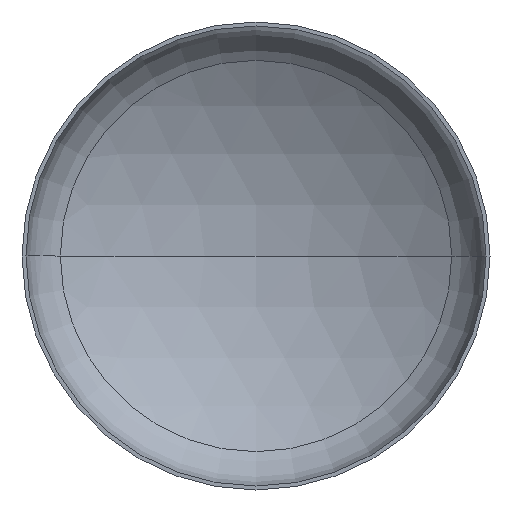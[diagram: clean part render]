
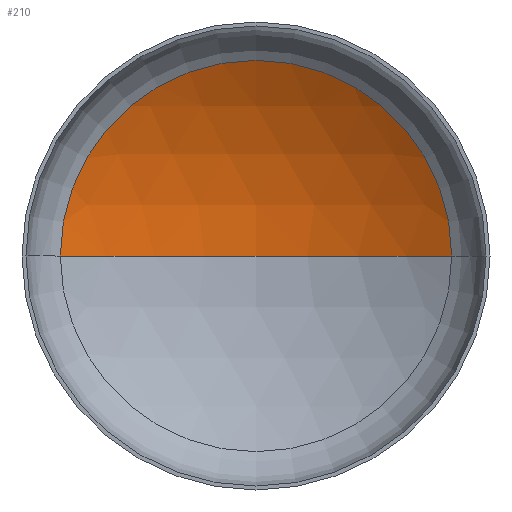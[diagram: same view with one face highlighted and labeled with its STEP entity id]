
A CAD part, front view. The second image highlights one B-rep face of the part: STEP entity #210.
In plain terms, the highlighted spherical face has radius 3040 mm.
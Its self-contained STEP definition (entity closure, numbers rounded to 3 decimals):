
#9 = EDGE_LOOP ( 'NONE', ( #110, #60, #46 ) ) ;
#40 = AXIS2_PLACEMENT_3D ( 'NONE', #295, #253, #180 ) ;
#45 = VERTEX_POINT ( 'NONE', #254 ) ;
#46 = ORIENTED_EDGE ( 'NONE', *, *, #147, .T. ) ;
#51 = AXIS2_PLACEMENT_3D ( 'NONE', #224, #275, #272 ) ;
#52 = SPHERICAL_SURFACE ( 'NONE', #40, 3040. ) ;
#53 = VERTEX_POINT ( 'NONE', #257 ) ;
#56 = AXIS2_PLACEMENT_3D ( 'NONE', #194, #202, #204 ) ;
#58 = AXIS2_PLACEMENT_3D ( 'NONE', #236, #183, #328 ) ;
#60 = ORIENTED_EDGE ( 'NONE', *, *, #150, .T. ) ;
#80 = VERTEX_POINT ( 'NONE', #245 ) ;
#110 = ORIENTED_EDGE ( 'NONE', *, *, #152, .F. ) ;
#147 = EDGE_CURVE ( 'NONE', #80, #45, #265, .T. ) ;
#150 = EDGE_CURVE ( 'NONE', #53, #80, #197, .T. ) ;
#152 = EDGE_CURVE ( 'NONE', #53, #45, #379, .T. ) ;
#180 = DIRECTION ( 'NONE',  ( -1., 0., 0. ) ) ;
#183 = DIRECTION ( 'NONE',  ( 0., -1., 0. ) ) ;
#194 = CARTESIAN_POINT ( 'NONE',  ( 0., -1993.069, 0. ) ) ;
#197 = CIRCLE ( 'NONE', #56, 3040. ) ;
#202 = DIRECTION ( 'NONE',  ( 0., 0., -1. ) ) ;
#204 = DIRECTION ( 'NONE',  ( -1., 0., 0. ) ) ;
#210 = ADVANCED_FACE ( 'NONE', ( #250 ), #52, .F. ) ;
#224 = CARTESIAN_POINT ( 'NONE',  ( 0., -1993.069, 0. ) ) ;
#236 = CARTESIAN_POINT ( 'NONE',  ( 0., 598.756, 0. ) ) ;
#245 = CARTESIAN_POINT ( 'NONE',  ( 1588.725, 598.756, 0. ) ) ;
#250 = FACE_OUTER_BOUND ( 'NONE', #9, .T. ) ;
#253 = DIRECTION ( 'NONE',  ( 0., 0., -1. ) ) ;
#254 = CARTESIAN_POINT ( 'NONE',  ( -1588.725, 598.756, 0. ) ) ;
#257 = CARTESIAN_POINT ( 'NONE',  ( 0., 1046.931, 0. ) ) ;
#265 = CIRCLE ( 'NONE', #58, 1588.725 ) ;
#272 = DIRECTION ( 'NONE',  ( 1., 0., 0. ) ) ;
#275 = DIRECTION ( 'NONE',  ( 0., 0., 1. ) ) ;
#295 = CARTESIAN_POINT ( 'NONE',  ( 0., -1993.069, 0. ) ) ;
#328 = DIRECTION ( 'NONE',  ( 1., 0., 0. ) ) ;
#379 = CIRCLE ( 'NONE', #51, 3040. ) ;
